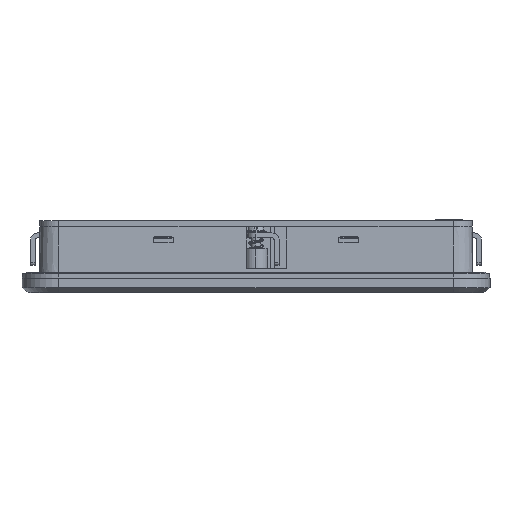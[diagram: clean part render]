
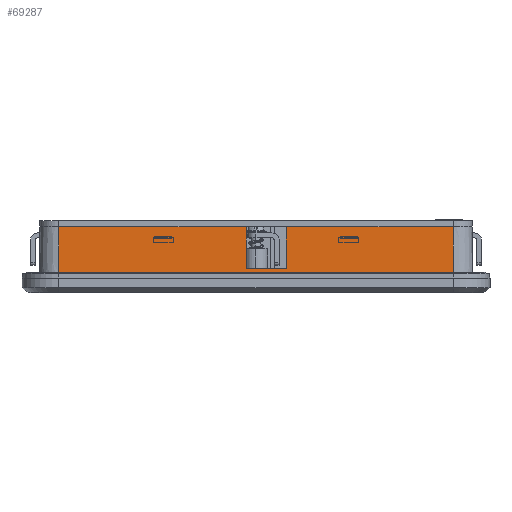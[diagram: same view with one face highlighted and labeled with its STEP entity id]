
A CAD part, left-side view. The second image highlights one B-rep face of the part: STEP entity #69287.
In plain terms, the highlighted planar face has unit normal (-1, 0, 0.018).
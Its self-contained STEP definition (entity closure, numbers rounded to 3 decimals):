
#18624=DIRECTION('',(0.,-1.,0.));
#18625=VECTOR('',#18624,162.);
#18626=CARTESIAN_POINT('',(-137.939,81.,8.));
#18627=LINE('',#18626,#18625);
#18628=DIRECTION('',(0.,1.,0.));
#18629=VECTOR('',#18628,77.);
#18630=CARTESIAN_POINT('',(-137.608,4.,27.));
#18631=LINE('',#18630,#18629);
#18632=DIRECTION('',(0.,-1.,0.));
#18633=VECTOR('',#18632,16.5);
#18634=CARTESIAN_POINT('',(-137.904,4.,10.));
#18635=LINE('',#18634,#18633);
#18636=DIRECTION('',(-0.017,0.,-1.));
#18637=VECTOR('',#18636,17.003);
#18638=CARTESIAN_POINT('',(-137.609,-12.5,27.));
#18639=LINE('',#18638,#18637);
#18640=DIRECTION('',(0.,1.,0.));
#18641=VECTOR('',#18640,68.5);
#18642=CARTESIAN_POINT('',(-137.614,-81.,
27.));
#18643=LINE('',#18642,#18641);
#18644=DIRECTION('',(-0.017,0.,-1.));
#18645=VECTOR('',#18644,19.003);
#18646=CARTESIAN_POINT('',(-137.614,-81.,
27.));
#18647=LINE('',#18646,#18645);
#18658=DIRECTION('',(-0.018,0.,-1.));
#18659=VECTOR('',#18658,19.003);
#18660=CARTESIAN_POINT('',(-137.604,81.,
27.));
#18661=LINE('',#18660,#18659);
#18686=DIRECTION('',(0.017,0.,1.));
#18687=VECTOR('',#18686,17.003);
#18688=CARTESIAN_POINT('',(-137.904,4.,10.));
#18689=LINE('',#18688,#18687);
#30412=CARTESIAN_POINT('',(-137.904,4.,10.));
#30413=CARTESIAN_POINT('',(-137.904,-12.5,10.));
#30414=VERTEX_POINT('',#30412);
#30415=VERTEX_POINT('',#30413);
#33003=CARTESIAN_POINT('',(-137.614,-81.,
27.));
#33004=CARTESIAN_POINT('',(-137.609,-12.5,27.));
#33005=VERTEX_POINT('',#33003);
#33006=VERTEX_POINT('',#33004);
#33007=CARTESIAN_POINT('',(-137.608,4.,27.));
#33008=CARTESIAN_POINT('',(-137.604,81.,
27.));
#33009=VERTEX_POINT('',#33007);
#33010=VERTEX_POINT('',#33008);
#36913=CARTESIAN_POINT('',(-137.939,81.,8.));
#36914=CARTESIAN_POINT('',(-137.939,-81.,8.));
#36915=VERTEX_POINT('',#36913);
#36916=VERTEX_POINT('',#36914);
#69266=CARTESIAN_POINT('',(-138.,94.591,4.5));
#69267=DIRECTION('',(-1.,0.,0.017));
#69268=DIRECTION('',(0.,-1.,0.));
#69269=AXIS2_PLACEMENT_3D('',#69266,#69267,#69268);
#69270=PLANE('',#69269);
#69271=ORIENTED_EDGE('',*,*,#45612,.F.);
#69273=ORIENTED_EDGE('',*,*,#69272,.F.);
#69275=ORIENTED_EDGE('',*,*,#69274,.F.);
#69277=ORIENTED_EDGE('',*,*,#69276,.F.);
#69279=ORIENTED_EDGE('',*,*,#69278,.T.);
#69281=ORIENTED_EDGE('',*,*,#69280,.F.);
#69283=ORIENTED_EDGE('',*,*,#69282,.F.);
#69284=ORIENTED_EDGE('',*,*,#69252,.T.);
#69285=EDGE_LOOP('',(#69271,#69273,#69275,#69277,#69279,#69281,#69283,#69284));
#69286=FACE_OUTER_BOUND('',#69285,.F.);
#45612=EDGE_CURVE('',#36915,#36916,#18627,.T.);
#69252=EDGE_CURVE('',#33005,#36916,#18647,.T.);
#69272=EDGE_CURVE('',#33010,#36915,#18661,.T.);
#69274=EDGE_CURVE('',#33009,#33010,#18631,.T.);
#69276=EDGE_CURVE('',#30414,#33009,#18689,.T.);
#69278=EDGE_CURVE('',#30414,#30415,#18635,.T.);
#69280=EDGE_CURVE('',#33006,#30415,#18639,.T.);
#69282=EDGE_CURVE('',#33005,#33006,#18643,.T.);
#69287=ADVANCED_FACE('',(#69286),#69270,.T.);
